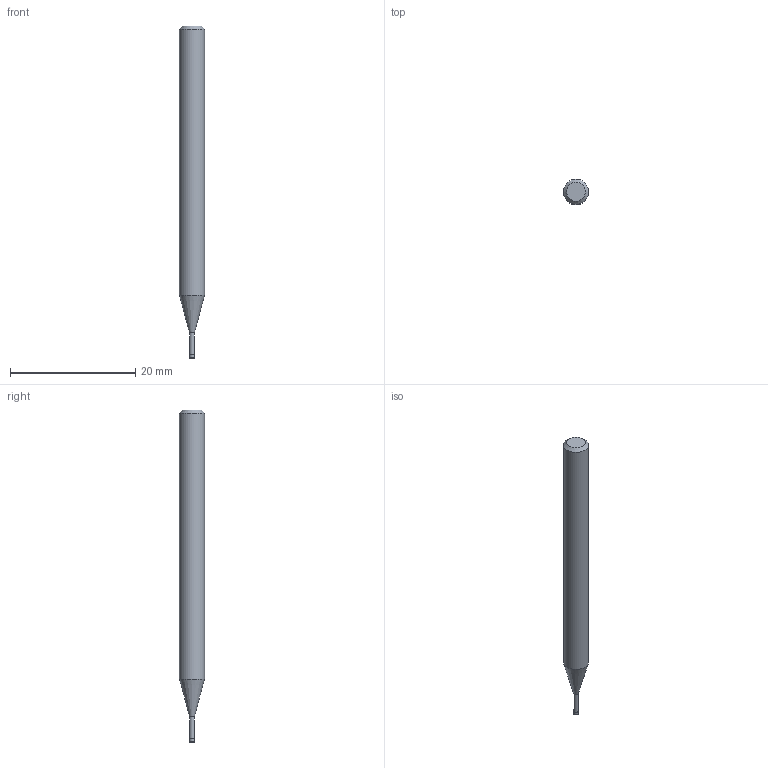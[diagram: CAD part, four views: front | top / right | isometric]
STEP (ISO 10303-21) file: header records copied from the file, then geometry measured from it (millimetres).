
FILE_DESCRIPTION((''),'2;1');
FILE_NAME('C:\Users\nsx150\AppData\Local\Temp\Mastercam 2021\KTITUSYVIC\TEMP.step','2025-03-31T18:55:05',(''),(''),'STEP Write','Mastercam 2021 ... CNC Software, Inc.','');
FILE_SCHEMA(('AUTOMOTIVE_DESIGN'));
Length unit declared in the file: millimetre
Products named in the file (1): None
Bounding box: 4 x 4 x 53 mm (x, y, z)
Volume: 571.2 mm3; surface area: 606.2 mm2
Topology: 2 solids, 2 shells, 10 faces, 14 edges, 8 vertices
Faces by surface type: plane 4, cylinder 3, cone 2, torus 1
Full cylindrical faces by diameter (mm): 0.76 x1, 0.8 x1, 4 x1
Entity records: 232 total; most frequent: DIRECTION 40, CARTESIAN_POINT 28, AXIS2_PLACEMENT_3D 20, ORIENTED_EDGE 16, EDGE_LOOP 16, STYLED_ITEM 13, ADVANCED_FACE 10, FACE_BOUND 10
